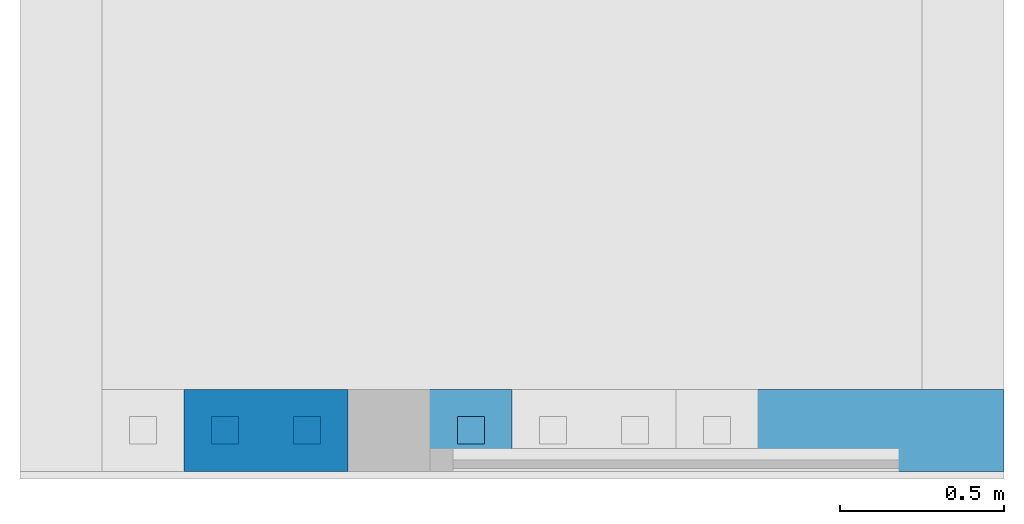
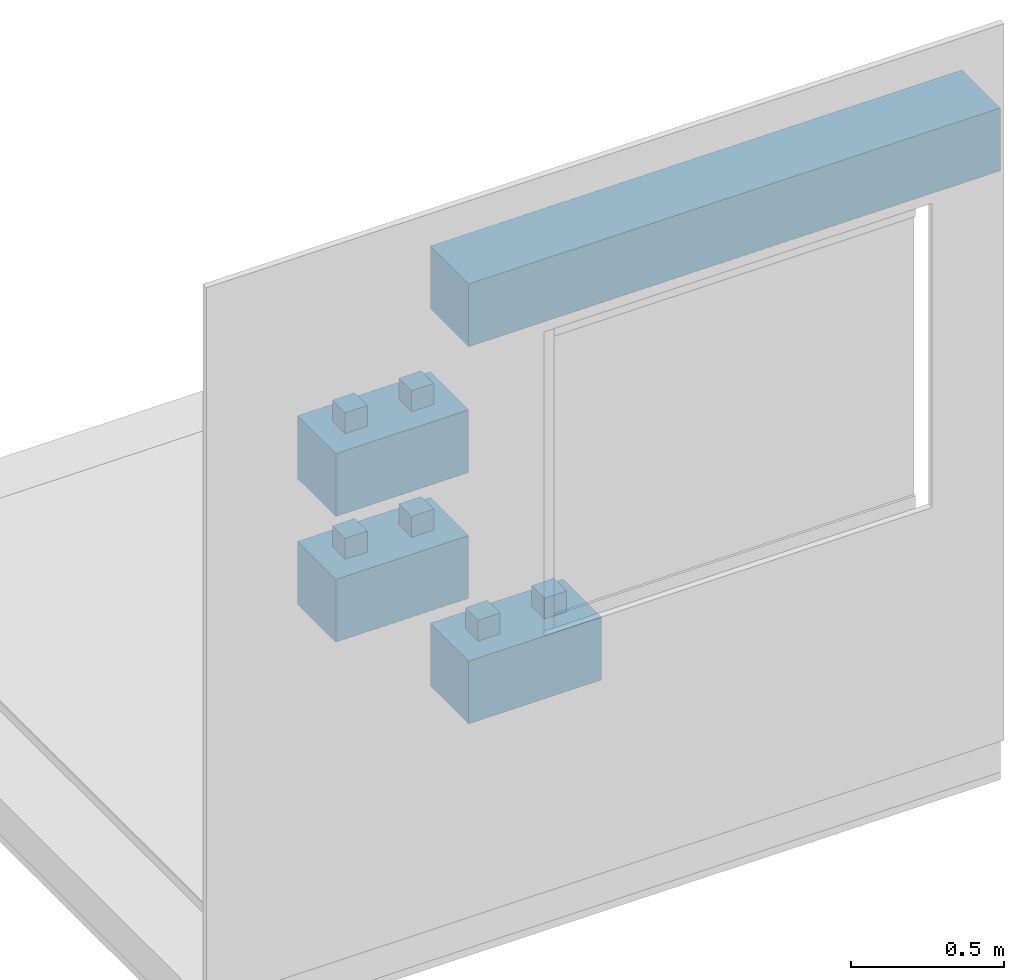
# One storey, part 1 of 9: 4 walls.
"""IFC4 building model written with IfcOpenShell, lengths in centimetres."""

from ifc_helpers import new_model, entity, si_unit, converted_unit, direction, frame, origin, place, context, subcontext, project, spatial, indexed_curve, outline, extrude, material, type_object, element, save


model = new_model("IFC4")

# Units and contexts
model_context = context("Model", 3, precision=0.001, world=origin(), true_north=direction((0.0, 1.0)))
body_context = subcontext(model_context, "Body", "Model", "MODEL_VIEW")
ifc_project = project(units=[si_unit("LENGTHUNIT", "METRE", prefix="CENTI"), si_unit("AREAUNIT", "SQUARE_METRE"), si_unit("VOLUMEUNIT", "CUBIC_METRE"), converted_unit("PLANEANGLEUNIT", "DEGREE", entity("IfcPlaneAngleMeasure", 0.017453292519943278), si_unit("PLANEANGLEUNIT", "RADIAN"), dimensions=[0, 0, 0, 0, 0, 0, 0])], contexts=[model_context])

# Site, building, storey
site_placement = place(None, origin())
site = spatial("IfcSite", under=ifc_project, at=site_placement, Name="Default", CompositionType="ELEMENT")
building_placement = place(site_placement, origin())
building = spatial("IfcBuilding", under=site, at=building_placement, CompositionType="ELEMENT")
storey_placement = place(building_placement, frame((0.0, 0.0, -4.0)))
storey = spatial("IfcBuildingStorey", under=building, at=storey_placement, Name="L00__ABOVE Slab", CompositionType="ELEMENT", Elevation=-4.000000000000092)

# Walls
ifc_material_1 = material(Name="Miscellaneous__Timber Block__Triqbriq, X", Category="Miscellaneous")
wall_type_1 = type_object("IfcWallType", Name="Columns : wll_s__TIMBER BLOCK__Triqbriq, Full Width__wp : WS25", PredefinedType="SOLIDWALL", material=ifc_material_1)
wall_1_placement = place(storey_placement, frame((2931.828914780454, 2128.5200309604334, 175.0)))
element("IfcWall", 1, at=wall_1_placement, inside=storey, type_object=wall_type_1, material=ifc_material_1, Name="Columns : wll_s__TIMBER BLOCK__Triqbriq, Full Width__wp : WS25", PredefinedType="SOLIDWALL", context=body_context, shape_type="SweptSolid", body=[
    extrude(outline(indexed_curve([(-4.166666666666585, -4.166666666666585), (4.166666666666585, -4.166666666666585), (4.166666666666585, 4.166666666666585), (-4.166666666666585, 4.166666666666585), (-4.166666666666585, -4.166666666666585)], self_intersect=False)), frame((37.50000000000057, 12.500000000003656, 16.66666666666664), z_axis=(0.0, 0.0, 1.0), x_axis=(0.0, 1.0, 0.0)), (0.0, 0.0, 1.0), 16.66666666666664),
    extrude(outline(indexed_curve([(-4.166666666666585, -4.166666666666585), (4.166666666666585, -4.166666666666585), (4.166666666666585, 4.166666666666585), (-4.166666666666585, 4.166666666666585), (-4.166666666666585, -4.166666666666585)], self_intersect=False)), frame((12.500000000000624, 12.500000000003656, 16.666666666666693), z_axis=(0.0, 0.0, 1.0), x_axis=(0.0, 1.0, 0.0)), (0.0, 0.0, 1.0), 16.66666666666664),
    extrude(outline(indexed_curve([(-4.166666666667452, -4.166666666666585), (4.166666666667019, -4.166666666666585), (4.166666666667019, 4.166666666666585), (-4.166666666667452, 4.166666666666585), (-4.166666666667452, -4.166666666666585)], self_intersect=False)), frame((45.83333333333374, 20.83333333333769, 8.333333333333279), z_axis=(0.0, 0.0, 1.0), x_axis=(0.0, 1.0, 0.0)), (0.0, 0.0, 1.0), 8.333333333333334),
    extrude(outline(indexed_curve([(-4.166666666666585, -4.166666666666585), (4.166666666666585, -4.166666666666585), (4.166666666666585, 4.166666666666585), (-4.166666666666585, 4.166666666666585), (-4.166666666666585, -4.166666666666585)], self_intersect=False)), frame((45.83333333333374, 4.166666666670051, 8.333333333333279), z_axis=(0.0, 0.0, 1.0), x_axis=(0.0, 1.0, 0.0)), (0.0, 0.0, 1.0), 8.333333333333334),
    extrude(outline(indexed_curve([(-4.166666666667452, -4.166666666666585), (4.166666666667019, -4.166666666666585), (4.166666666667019, 4.166666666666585), (-4.166666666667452, 4.166666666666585), (-4.166666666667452, -4.166666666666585)], self_intersect=False)), frame((4.166666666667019, 20.83333333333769, 8.333333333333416), z_axis=(0.0, 0.0, 1.0), x_axis=(0.0, 1.0, 0.0)), (0.0, 0.0, 1.0), 8.333333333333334),
    extrude(outline(indexed_curve([(-4.166666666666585, -4.166666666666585), (4.166666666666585, -4.166666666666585), (4.166666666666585, 4.166666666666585), (-4.166666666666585, 4.166666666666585), (-4.166666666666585, -4.166666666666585)], self_intersect=False)), frame((4.166666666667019, 4.166666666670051, 8.333333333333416), z_axis=(0.0, 0.0, 1.0), x_axis=(0.0, 1.0, 0.0)), (0.0, 0.0, 1.0), 8.333333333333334),
    extrude(outline(indexed_curve([(-4.166666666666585, -8.333333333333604), (4.166666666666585, -8.333333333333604), (4.166666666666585, 8.33333333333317), (-4.166666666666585, 8.33333333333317), (-4.166666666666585, -8.333333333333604)], self_intersect=False)), frame((25.0, 4.166666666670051, 8.33333333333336), z_axis=(0.0, 0.0, 1.0), x_axis=(0.0, 1.0, 0.0)), (0.0, 0.0, 1.0), 8.333333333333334),
    extrude(outline(indexed_curve([(-4.166666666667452, -8.333333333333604), (4.166666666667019, -8.333333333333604), (4.166666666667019, 8.33333333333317), (-4.166666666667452, 8.33333333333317), (-4.166666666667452, -8.333333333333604)], self_intersect=False)), frame((25.0, 20.83333333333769, 8.33333333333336), z_axis=(0.0, 0.0, 1.0), x_axis=(0.0, 1.0, 0.0)), (0.0, 0.0, 1.0), 8.333333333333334),
    extrude(outline(indexed_curve([(-4.166666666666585, -24.999999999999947), (4.166666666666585, -24.999999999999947), (4.166666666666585, 24.999999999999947), (-4.166666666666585, 24.999999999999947), (-4.166666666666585, -24.999999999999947)], self_intersect=False)), frame((25.0, 12.500000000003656, 8.333333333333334), z_axis=(0.0, 0.0, 1.0), x_axis=(0.0, 1.0, 0.0)), (0.0, 0.0, 1.0), 8.333333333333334),
    extrude(outline(indexed_curve([(-12.50000000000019, -4.166666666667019), (12.500000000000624, -4.166666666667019), (12.500000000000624, 4.166666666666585), (-12.50000000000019, 4.166666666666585), (-12.50000000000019, -4.166666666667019)], self_intersect=False)), frame((29.1666666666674, 12.500000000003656, 0.0), z_axis=(0.0, 0.0, 1.0), x_axis=(0.0, 1.0, 0.0)), (0.0, 0.0, 1.0), 8.333333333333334),
    extrude(outline(indexed_curve([(-12.50000000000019, -4.166666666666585), (12.500000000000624, -4.166666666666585), (12.500000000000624, 4.166666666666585), (-12.50000000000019, 4.166666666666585), (-12.50000000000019, -4.166666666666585)], self_intersect=False)), frame((20.833333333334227, 12.500000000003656, 0.0), z_axis=(0.0, 0.0, 1.0), x_axis=(0.0, 1.0, 0.0)), (0.0, 0.0, 1.0), 8.333333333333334),
    extrude(outline(indexed_curve([(-12.50000000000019, -4.166666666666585), (12.500000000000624, -4.166666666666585), (12.500000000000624, 4.166666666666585), (-12.50000000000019, 4.166666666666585), (-12.50000000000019, -4.166666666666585)], self_intersect=False)), frame((45.833333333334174, 12.500000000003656, 0.0), z_axis=(0.0, 0.0, 1.0), x_axis=(0.0, 1.0, 0.0)), (0.0, 0.0, 1.0), 8.333333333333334),
    extrude(outline(indexed_curve([(-12.50000000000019, -4.166666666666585), (12.500000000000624, -4.166666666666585), (12.500000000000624, 4.166666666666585), (-12.50000000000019, 4.166666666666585), (-12.50000000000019, -4.166666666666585)], self_intersect=False)), frame((4.166666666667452, 12.500000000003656, 0.0), z_axis=(0.0, 0.0, 1.0), x_axis=(0.0, 1.0, 0.0)), (0.0, 0.0, 1.0), 8.333333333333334),
    extrude(outline(indexed_curve([(-4.166666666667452, -4.166666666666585), (4.166666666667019, -4.166666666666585), (4.166666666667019, 4.166666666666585), (-4.166666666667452, 4.166666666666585), (-4.166666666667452, -4.166666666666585)], self_intersect=False)), frame((37.500000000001, 20.83333333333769, 0.0), z_axis=(0.0, 0.0, 1.0), x_axis=(0.0, 1.0, 0.0)), (0.0, 0.0, 1.0), 24.999999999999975),
    extrude(outline(indexed_curve([(-4.166666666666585, -4.166666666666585), (4.166666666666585, -4.166666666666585), (4.166666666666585, 4.166666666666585), (-4.166666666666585, 4.166666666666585), (-4.166666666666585, -4.166666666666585)], self_intersect=False)), frame((37.500000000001, 4.166666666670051, 0.0), z_axis=(0.0, 0.0, 1.0), x_axis=(0.0, 1.0, 0.0)), (0.0, 0.0, 1.0), 24.999999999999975),
    extrude(outline(indexed_curve([(-4.166666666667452, -4.166666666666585), (4.166666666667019, -4.166666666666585), (4.166666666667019, 4.166666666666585), (-4.166666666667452, 4.166666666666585), (-4.166666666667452, -4.166666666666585)], self_intersect=False)), frame((12.500000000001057, 20.83333333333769, 0.0), z_axis=(0.0, 0.0, 1.0), x_axis=(0.0, 1.0, 0.0)), (0.0, 0.0, 1.0), 24.999999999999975),
    extrude(outline(indexed_curve([(-4.166666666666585, -4.166666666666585), (4.166666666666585, -4.166666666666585), (4.166666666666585, 4.166666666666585), (-4.166666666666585, 4.166666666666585), (-4.166666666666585, -4.166666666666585)], self_intersect=False)), frame((12.500000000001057, 4.166666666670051, 0.0), z_axis=(0.0, 0.0, 1.0), x_axis=(0.0, 1.0, 0.0)), (0.0, 0.0, 1.0), 24.999999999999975),
    extrude(outline(indexed_curve([(-12.50000000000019, -4.166666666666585), (12.500000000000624, -4.166666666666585), (12.500000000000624, 4.166666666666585), (-12.50000000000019, 4.166666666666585), (-12.50000000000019, -4.166666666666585)], self_intersect=False)), frame((45.83333333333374, 12.500000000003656, 16.666666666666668), z_axis=(0.0, 0.0, 1.0), x_axis=(0.0, 1.0, 0.0)), (0.0, 0.0, 1.0), 8.333333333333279),
    extrude(outline(indexed_curve([(-12.50000000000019, -4.166666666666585), (12.500000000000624, -4.166666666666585), (12.500000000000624, 4.166666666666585), (-12.50000000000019, 4.166666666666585), (-12.50000000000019, -4.166666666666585)], self_intersect=False)), frame((29.1666666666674, 12.500000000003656, 16.666666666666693), z_axis=(0.0, 0.0, 1.0), x_axis=(0.0, 1.0, 0.0)), (0.0, 0.0, 1.0), 8.333333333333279),
    extrude(outline(indexed_curve([(-12.50000000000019, -4.166666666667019), (12.500000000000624, -4.166666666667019), (12.500000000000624, 4.166666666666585), (-12.50000000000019, 4.166666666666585), (-12.50000000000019, -4.166666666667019)], self_intersect=False)), frame((20.833333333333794, 12.500000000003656, 16.66666666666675), z_axis=(0.0, 0.0, 1.0), x_axis=(0.0, 1.0, 0.0)), (0.0, 0.0, 1.0), 8.333333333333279),
    extrude(outline(indexed_curve([(-12.50000000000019, -4.166666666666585), (12.500000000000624, -4.166666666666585), (12.500000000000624, 4.166666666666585), (-12.50000000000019, 4.166666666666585), (-12.50000000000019, -4.166666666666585)], self_intersect=False)), frame((4.166666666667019, 12.500000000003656, 16.666666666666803), z_axis=(0.0, 0.0, 1.0), x_axis=(0.0, 1.0, 0.0)), (0.0, 0.0, 1.0), 8.333333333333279),
])
wall_2_placement = place(storey_placement, frame((2931.828914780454, 2128.5200309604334, 125.0)))
element("IfcWall", 2, at=wall_2_placement, inside=storey, type_object=wall_type_1, material=ifc_material_1, Name="Columns : wll_s__TIMBER BLOCK__Triqbriq, Full Width__wp : WS25", PredefinedType="SOLIDWALL", context=body_context, shape_type="SweptSolid", body=[
    extrude(outline(indexed_curve([(-4.166666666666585, -4.166666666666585), (4.166666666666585, -4.166666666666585), (4.166666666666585, 4.166666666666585), (-4.166666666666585, 4.166666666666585), (-4.166666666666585, -4.166666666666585)], self_intersect=False)), frame((37.50000000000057, 12.500000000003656, 16.66666666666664), z_axis=(0.0, 0.0, 1.0), x_axis=(0.0, 1.0, 0.0)), (0.0, 0.0, 1.0), 16.666666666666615),
    extrude(outline(indexed_curve([(-4.166666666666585, -4.166666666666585), (4.166666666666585, -4.166666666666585), (4.166666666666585, 4.166666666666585), (-4.166666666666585, 4.166666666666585), (-4.166666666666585, -4.166666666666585)], self_intersect=False)), frame((12.500000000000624, 12.500000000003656, 16.666666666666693), z_axis=(0.0, 0.0, 1.0), x_axis=(0.0, 1.0, 0.0)), (0.0, 0.0, 1.0), 16.666666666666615),
    extrude(outline(indexed_curve([(-4.166666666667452, -4.166666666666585), (4.166666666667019, -4.166666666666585), (4.166666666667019, 4.166666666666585), (-4.166666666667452, 4.166666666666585), (-4.166666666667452, -4.166666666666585)], self_intersect=False)), frame((45.83333333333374, 20.83333333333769, 8.333333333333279), z_axis=(0.0, 0.0, 1.0), x_axis=(0.0, 1.0, 0.0)), (0.0, 0.0, 1.0), 8.333333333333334),
    extrude(outline(indexed_curve([(-4.166666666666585, -4.166666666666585), (4.166666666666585, -4.166666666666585), (4.166666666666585, 4.166666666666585), (-4.166666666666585, 4.166666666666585), (-4.166666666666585, -4.166666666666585)], self_intersect=False)), frame((45.83333333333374, 4.166666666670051, 8.333333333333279), z_axis=(0.0, 0.0, 1.0), x_axis=(0.0, 1.0, 0.0)), (0.0, 0.0, 1.0), 8.333333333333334),
    extrude(outline(indexed_curve([(-4.166666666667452, -4.166666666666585), (4.166666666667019, -4.166666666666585), (4.166666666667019, 4.166666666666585), (-4.166666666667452, 4.166666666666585), (-4.166666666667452, -4.166666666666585)], self_intersect=False)), frame((4.166666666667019, 20.83333333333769, 8.333333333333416), z_axis=(0.0, 0.0, 1.0), x_axis=(0.0, 1.0, 0.0)), (0.0, 0.0, 1.0), 8.333333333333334),
    extrude(outline(indexed_curve([(-4.166666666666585, -4.166666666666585), (4.166666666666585, -4.166666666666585), (4.166666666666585, 4.166666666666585), (-4.166666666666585, 4.166666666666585), (-4.166666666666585, -4.166666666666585)], self_intersect=False)), frame((4.166666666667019, 4.166666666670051, 8.333333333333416), z_axis=(0.0, 0.0, 1.0), x_axis=(0.0, 1.0, 0.0)), (0.0, 0.0, 1.0), 8.333333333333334),
    extrude(outline(indexed_curve([(-4.166666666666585, -8.333333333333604), (4.166666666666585, -8.333333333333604), (4.166666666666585, 8.33333333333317), (-4.166666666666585, 8.33333333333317), (-4.166666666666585, -8.333333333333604)], self_intersect=False)), frame((25.0, 4.166666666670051, 8.333333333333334), z_axis=(0.0, 0.0, 1.0), x_axis=(0.0, 1.0, 0.0)), (0.0, 0.0, 1.0), 8.333333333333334),
    extrude(outline(indexed_curve([(-4.166666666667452, -8.333333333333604), (4.166666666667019, -8.333333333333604), (4.166666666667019, 8.33333333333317), (-4.166666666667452, 8.33333333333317), (-4.166666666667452, -8.333333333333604)], self_intersect=False)), frame((25.0, 20.83333333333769, 8.333333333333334), z_axis=(0.0, 0.0, 1.0), x_axis=(0.0, 1.0, 0.0)), (0.0, 0.0, 1.0), 8.333333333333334),
    extrude(outline(indexed_curve([(-4.166666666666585, -24.999999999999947), (4.166666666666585, -24.999999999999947), (4.166666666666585, 24.999999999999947), (-4.166666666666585, 24.999999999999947), (-4.166666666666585, -24.999999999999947)], self_intersect=False)), frame((25.0, 12.500000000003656, 8.333333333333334), z_axis=(0.0, 0.0, 1.0), x_axis=(0.0, 1.0, 0.0)), (0.0, 0.0, 1.0), 8.333333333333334),
    extrude(outline(indexed_curve([(-12.50000000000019, -4.166666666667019), (12.500000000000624, -4.166666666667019), (12.500000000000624, 4.166666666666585), (-12.50000000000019, 4.166666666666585), (-12.50000000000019, -4.166666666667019)], self_intersect=False)), frame((29.1666666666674, 12.500000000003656, 0.0), z_axis=(0.0, 0.0, 1.0), x_axis=(0.0, 1.0, 0.0)), (0.0, 0.0, 1.0), 8.333333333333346),
    extrude(outline(indexed_curve([(-12.50000000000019, -4.166666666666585), (12.500000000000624, -4.166666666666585), (12.500000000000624, 4.166666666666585), (-12.50000000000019, 4.166666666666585), (-12.50000000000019, -4.166666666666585)], self_intersect=False)), frame((20.833333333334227, 12.500000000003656, 0.0), z_axis=(0.0, 0.0, 1.0), x_axis=(0.0, 1.0, 0.0)), (0.0, 0.0, 1.0), 8.333333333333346),
    extrude(outline(indexed_curve([(-12.50000000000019, -4.166666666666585), (12.500000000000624, -4.166666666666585), (12.500000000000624, 4.166666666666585), (-12.50000000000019, 4.166666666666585), (-12.50000000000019, -4.166666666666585)], self_intersect=False)), frame((45.833333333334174, 12.500000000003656, 0.0), z_axis=(0.0, 0.0, 1.0), x_axis=(0.0, 1.0, 0.0)), (0.0, 0.0, 1.0), 8.333333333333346),
    extrude(outline(indexed_curve([(-12.50000000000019, -4.166666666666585), (12.500000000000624, -4.166666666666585), (12.500000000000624, 4.166666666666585), (-12.50000000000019, 4.166666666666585), (-12.50000000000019, -4.166666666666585)], self_intersect=False)), frame((4.166666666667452, 12.500000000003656, 0.0), z_axis=(0.0, 0.0, 1.0), x_axis=(0.0, 1.0, 0.0)), (0.0, 0.0, 1.0), 8.333333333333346),
    extrude(outline(indexed_curve([(-4.166666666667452, -4.166666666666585), (4.166666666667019, -4.166666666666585), (4.166666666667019, 4.166666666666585), (-4.166666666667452, 4.166666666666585), (-4.166666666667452, -4.166666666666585)], self_intersect=False)), frame((37.500000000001, 20.83333333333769, 0.0), z_axis=(0.0, 0.0, 1.0), x_axis=(0.0, 1.0, 0.0)), (0.0, 0.0, 1.0), 24.999999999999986),
    extrude(outline(indexed_curve([(-4.166666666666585, -4.166666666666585), (4.166666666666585, -4.166666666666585), (4.166666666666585, 4.166666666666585), (-4.166666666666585, 4.166666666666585), (-4.166666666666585, -4.166666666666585)], self_intersect=False)), frame((37.500000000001, 4.166666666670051, 0.0), z_axis=(0.0, 0.0, 1.0), x_axis=(0.0, 1.0, 0.0)), (0.0, 0.0, 1.0), 24.999999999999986),
    extrude(outline(indexed_curve([(-4.166666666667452, -4.166666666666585), (4.166666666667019, -4.166666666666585), (4.166666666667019, 4.166666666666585), (-4.166666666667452, 4.166666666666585), (-4.166666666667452, -4.166666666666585)], self_intersect=False)), frame((12.500000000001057, 20.83333333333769, 0.0), z_axis=(0.0, 0.0, 1.0), x_axis=(0.0, 1.0, 0.0)), (0.0, 0.0, 1.0), 24.999999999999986),
    extrude(outline(indexed_curve([(-4.166666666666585, -4.166666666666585), (4.166666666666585, -4.166666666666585), (4.166666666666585, 4.166666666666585), (-4.166666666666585, 4.166666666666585), (-4.166666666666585, -4.166666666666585)], self_intersect=False)), frame((12.500000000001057, 4.166666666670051, 0.0), z_axis=(0.0, 0.0, 1.0), x_axis=(0.0, 1.0, 0.0)), (0.0, 0.0, 1.0), 24.999999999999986),
    extrude(outline(indexed_curve([(-12.50000000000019, -4.166666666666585), (12.500000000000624, -4.166666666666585), (12.500000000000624, 4.166666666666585), (-12.50000000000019, 4.166666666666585), (-12.50000000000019, -4.166666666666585)], self_intersect=False)), frame((45.83333333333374, 12.500000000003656, 16.66666666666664), z_axis=(0.0, 0.0, 1.0), x_axis=(0.0, 1.0, 0.0)), (0.0, 0.0, 1.0), 8.333333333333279),
    extrude(outline(indexed_curve([(-12.50000000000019, -4.166666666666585), (12.500000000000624, -4.166666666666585), (12.500000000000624, 4.166666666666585), (-12.50000000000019, 4.166666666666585), (-12.50000000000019, -4.166666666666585)], self_intersect=False)), frame((29.1666666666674, 12.500000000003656, 16.666666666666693), z_axis=(0.0, 0.0, 1.0), x_axis=(0.0, 1.0, 0.0)), (0.0, 0.0, 1.0), 8.333333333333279),
    extrude(outline(indexed_curve([(-12.50000000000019, -4.166666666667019), (12.500000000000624, -4.166666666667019), (12.500000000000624, 4.166666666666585), (-12.50000000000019, 4.166666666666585), (-12.50000000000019, -4.166666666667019)], self_intersect=False)), frame((20.833333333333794, 12.500000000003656, 16.666666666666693), z_axis=(0.0, 0.0, 1.0), x_axis=(0.0, 1.0, 0.0)), (0.0, 0.0, 1.0), 8.333333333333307),
    extrude(outline(indexed_curve([(-12.50000000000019, -4.166666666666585), (12.500000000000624, -4.166666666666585), (12.500000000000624, 4.166666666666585), (-12.50000000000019, 4.166666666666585), (-12.50000000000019, -4.166666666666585)], self_intersect=False)), frame((4.166666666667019, 12.500000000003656, 16.666666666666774), z_axis=(0.0, 0.0, 1.0), x_axis=(0.0, 1.0, 0.0)), (0.0, 0.0, 1.0), 8.333333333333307),
])
wall_3_placement = place(storey_placement, frame((2981.8289147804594, 2128.520030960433, 75.0)))
element("IfcWall", 3, at=wall_3_placement, inside=storey, type_object=wall_type_1, material=ifc_material_1, Name="Columns : wll_s__TIMBER BLOCK__Triqbriq, Full Width__wp : WS25", PredefinedType="SOLIDWALL", context=body_context, shape_type="SweptSolid", body=[
    extrude(outline(indexed_curve([(-4.166666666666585, -4.166666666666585), (4.166666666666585, -4.166666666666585), (4.166666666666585, 4.166666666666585), (-4.166666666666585, 4.166666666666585), (-4.166666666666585, -4.166666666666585)], self_intersect=False)), frame((37.50000000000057, 12.500000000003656, 16.666666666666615), z_axis=(0.0, 0.0, 1.0), x_axis=(0.0, 1.0, 0.0)), (0.0, 0.0, 1.0), 16.66666666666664),
    extrude(outline(indexed_curve([(-4.166666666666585, -4.166666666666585), (4.166666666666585, -4.166666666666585), (4.166666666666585, 4.166666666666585), (-4.166666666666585, 4.166666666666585), (-4.166666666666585, -4.166666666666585)], self_intersect=False)), frame((12.500000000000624, 12.500000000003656, 16.666666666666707), z_axis=(0.0, 0.0, 1.0), x_axis=(0.0, 1.0, 0.0)), (0.0, 0.0, 1.0), 16.66666666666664),
    extrude(outline(indexed_curve([(-4.166666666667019, -4.166666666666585), (4.166666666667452, -4.166666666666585), (4.166666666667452, 4.166666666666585), (-4.166666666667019, 4.166666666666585), (-4.166666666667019, -4.166666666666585)], self_intersect=False)), frame((45.83333333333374, 20.833333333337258, 8.333333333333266), z_axis=(0.0, 0.0, 1.0), x_axis=(0.0, 1.0, 0.0)), (0.0, 0.0, 1.0), 8.333333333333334),
    extrude(outline(indexed_curve([(-4.166666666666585, -4.166666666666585), (4.166666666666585, -4.166666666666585), (4.166666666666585, 4.166666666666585), (-4.166666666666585, 4.166666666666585), (-4.166666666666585, -4.166666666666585)], self_intersect=False)), frame((45.83333333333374, 4.166666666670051, 8.333333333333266), z_axis=(0.0, 0.0, 1.0), x_axis=(0.0, 1.0, 0.0)), (0.0, 0.0, 1.0), 8.333333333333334),
    extrude(outline(indexed_curve([(-4.166666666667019, -4.166666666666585), (4.166666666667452, -4.166666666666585), (4.166666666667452, 4.166666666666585), (-4.166666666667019, 4.166666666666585), (-4.166666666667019, -4.166666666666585)], self_intersect=False)), frame((4.166666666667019, 20.833333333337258, 8.333333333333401), z_axis=(0.0, 0.0, 1.0), x_axis=(0.0, 1.0, 0.0)), (0.0, 0.0, 1.0), 8.333333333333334),
    extrude(outline(indexed_curve([(-4.166666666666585, -4.166666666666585), (4.166666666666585, -4.166666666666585), (4.166666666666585, 4.166666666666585), (-4.166666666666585, 4.166666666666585), (-4.166666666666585, -4.166666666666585)], self_intersect=False)), frame((4.166666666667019, 4.166666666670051, 8.333333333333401), z_axis=(0.0, 0.0, 1.0), x_axis=(0.0, 1.0, 0.0)), (0.0, 0.0, 1.0), 8.333333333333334),
    extrude(outline(indexed_curve([(-4.166666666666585, -8.33333333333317), (4.166666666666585, -8.33333333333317), (4.166666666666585, 8.333333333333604), (-4.166666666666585, 8.333333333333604), (-4.166666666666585, -8.33333333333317)], self_intersect=False)), frame((25.0, 4.166666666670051, 8.333333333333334), z_axis=(0.0, 0.0, 1.0), x_axis=(0.0, 1.0, 0.0)), (0.0, 0.0, 1.0), 8.333333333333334),
    extrude(outline(indexed_curve([(-4.166666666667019, -8.33333333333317), (4.166666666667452, -8.33333333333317), (4.166666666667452, 8.333333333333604), (-4.166666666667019, 8.333333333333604), (-4.166666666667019, -8.33333333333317)], self_intersect=False)), frame((25.0, 20.833333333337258, 8.333333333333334), z_axis=(0.0, 0.0, 1.0), x_axis=(0.0, 1.0, 0.0)), (0.0, 0.0, 1.0), 8.333333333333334),
    extrude(outline(indexed_curve([(-4.166666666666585, -24.999999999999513), (4.166666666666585, -24.999999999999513), (4.166666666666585, 25.00000000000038), (-4.166666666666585, 25.00000000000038), (-4.166666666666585, -24.999999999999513)], self_intersect=False)), frame((25.0, 12.500000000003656, 8.333333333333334), z_axis=(0.0, 0.0, 1.0), x_axis=(0.0, 1.0, 0.0)), (0.0, 0.0, 1.0), 8.333333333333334),
    extrude(outline(indexed_curve([(-12.500000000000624, -4.166666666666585), (12.50000000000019, -4.166666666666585), (12.50000000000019, 4.166666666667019), (-12.500000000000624, 4.166666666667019), (-12.500000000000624, -4.166666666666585)], self_intersect=False)), frame((29.166666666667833, 12.50000000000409, 0.0), z_axis=(0.0, 0.0, 1.0), x_axis=(0.0, 1.0, 0.0)), (0.0, 0.0, 1.0), 8.333333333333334),
    extrude(outline(indexed_curve([(-12.500000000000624, -4.166666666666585), (12.50000000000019, -4.166666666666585), (12.50000000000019, 4.166666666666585), (-12.500000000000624, 4.166666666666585), (-12.500000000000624, -4.166666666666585)], self_intersect=False)), frame((20.833333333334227, 12.50000000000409, 0.0), z_axis=(0.0, 0.0, 1.0), x_axis=(0.0, 1.0, 0.0)), (0.0, 0.0, 1.0), 8.333333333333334),
    extrude(outline(indexed_curve([(-12.500000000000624, -4.166666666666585), (12.50000000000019, -4.166666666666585), (12.50000000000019, 4.166666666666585), (-12.500000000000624, 4.166666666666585), (-12.500000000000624, -4.166666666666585)], self_intersect=False)), frame((45.833333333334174, 12.50000000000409, 0.0), z_axis=(0.0, 0.0, 1.0), x_axis=(0.0, 1.0, 0.0)), (0.0, 0.0, 1.0), 8.333333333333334),
    extrude(outline(indexed_curve([(-12.500000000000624, -4.166666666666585), (12.50000000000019, -4.166666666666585), (12.50000000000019, 4.166666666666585), (-12.500000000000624, 4.166666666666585), (-12.500000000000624, -4.166666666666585)], self_intersect=False)), frame((4.166666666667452, 12.50000000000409, 0.0), z_axis=(0.0, 0.0, 1.0), x_axis=(0.0, 1.0, 0.0)), (0.0, 0.0, 1.0), 8.333333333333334),
    extrude(outline(indexed_curve([(-4.166666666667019, -4.166666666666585), (4.166666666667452, -4.166666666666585), (4.166666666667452, 4.166666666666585), (-4.166666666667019, 4.166666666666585), (-4.166666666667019, -4.166666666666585)], self_intersect=False)), frame((37.500000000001, 20.833333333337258, 0.0), z_axis=(0.0, 0.0, 1.0), x_axis=(0.0, 1.0, 0.0)), (0.0, 0.0, 1.0), 24.999999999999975),
    extrude(outline(indexed_curve([(-4.166666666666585, -4.166666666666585), (4.166666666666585, -4.166666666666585), (4.166666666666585, 4.166666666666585), (-4.166666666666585, 4.166666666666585), (-4.166666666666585, -4.166666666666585)], self_intersect=False)), frame((37.500000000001, 4.166666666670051, 0.0), z_axis=(0.0, 0.0, 1.0), x_axis=(0.0, 1.0, 0.0)), (0.0, 0.0, 1.0), 24.999999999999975),
    extrude(outline(indexed_curve([(-4.166666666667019, -4.166666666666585), (4.166666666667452, -4.166666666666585), (4.166666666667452, 4.166666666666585), (-4.166666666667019, 4.166666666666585), (-4.166666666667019, -4.166666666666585)], self_intersect=False)), frame((12.500000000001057, 20.833333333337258, 0.0), z_axis=(0.0, 0.0, 1.0), x_axis=(0.0, 1.0, 0.0)), (0.0, 0.0, 1.0), 24.999999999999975),
    extrude(outline(indexed_curve([(-4.166666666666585, -4.166666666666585), (4.166666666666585, -4.166666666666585), (4.166666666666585, 4.166666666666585), (-4.166666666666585, 4.166666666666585), (-4.166666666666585, -4.166666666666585)], self_intersect=False)), frame((12.500000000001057, 4.166666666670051, 0.0), z_axis=(0.0, 0.0, 1.0), x_axis=(0.0, 1.0, 0.0)), (0.0, 0.0, 1.0), 24.999999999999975),
    extrude(outline(indexed_curve([(-12.500000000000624, -4.166666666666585), (12.50000000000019, -4.166666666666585), (12.50000000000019, 4.166666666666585), (-12.500000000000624, 4.166666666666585), (-12.500000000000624, -4.166666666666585)], self_intersect=False)), frame((45.83333333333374, 12.50000000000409, 16.666666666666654), z_axis=(0.0, 0.0, 1.0), x_axis=(0.0, 1.0, 0.0)), (0.0, 0.0, 1.0), 8.333333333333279),
    extrude(outline(indexed_curve([(-12.500000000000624, -4.166666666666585), (12.50000000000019, -4.166666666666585), (12.50000000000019, 4.166666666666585), (-12.500000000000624, 4.166666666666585), (-12.500000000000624, -4.166666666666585)], self_intersect=False)), frame((29.1666666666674, 12.50000000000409, 16.666666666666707), z_axis=(0.0, 0.0, 1.0), x_axis=(0.0, 1.0, 0.0)), (0.0, 0.0, 1.0), 8.333333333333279),
    extrude(outline(indexed_curve([(-12.500000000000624, -4.166666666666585), (12.50000000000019, -4.166666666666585), (12.50000000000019, 4.166666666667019), (-12.500000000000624, 4.166666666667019), (-12.500000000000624, -4.166666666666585)], self_intersect=False)), frame((20.833333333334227, 12.50000000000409, 16.66666666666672), z_axis=(0.0, 0.0, 1.0), x_axis=(0.0, 1.0, 0.0)), (0.0, 0.0, 1.0), 8.333333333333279),
    extrude(outline(indexed_curve([(-12.500000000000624, -4.166666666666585), (12.50000000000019, -4.166666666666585), (12.50000000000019, 4.166666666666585), (-12.500000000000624, 4.166666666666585), (-12.500000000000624, -4.166666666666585)], self_intersect=False)), frame((4.166666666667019, 12.50000000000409, 16.666666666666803), z_axis=(0.0, 0.0, 1.0), x_axis=(0.0, 1.0, 0.0)), (0.0, 0.0, 1.0), 8.333333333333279),
])
ifc_material_2 = material(Name="_STRUCTURE__Wood Solid")
wall_type_2 = type_object("IfcWallType", Name="Structural Framing : wll_s__LINTEL__Triqbriq, Rectangular__wp : Wood", PredefinedType="SOLIDWALL", material=ifc_material_2)
wall_4_placement = place(storey_placement, frame((2981.828914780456, 2128.520030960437, 225.0)))
element("IfcWall", 4, at=wall_4_placement, inside=storey, type_object=wall_type_2, material=ifc_material_2, Name="Structural Framing : wll_s__LINTEL__Triqbriq, Rectangular__wp : Wood", PredefinedType="SOLIDWALL", context=body_context, shape_type="SweptSolid", body=[
    extrude(outline(indexed_curve([(-99.99999999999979, -12.50000000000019), (100.00000000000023, -12.50000000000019), (100.00000000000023, 12.499999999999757), (-99.99999999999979, 12.499999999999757), (-99.99999999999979, -12.50000000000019)], self_intersect=False)), frame((100.0, 12.499999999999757, 0.0), z_axis=(0.0, 0.0, 1.0), x_axis=(-1.0, 0.0, 0.0)), (0.0, 0.0, 1.0), 25.0),
])

save(model, "model.ifc")
